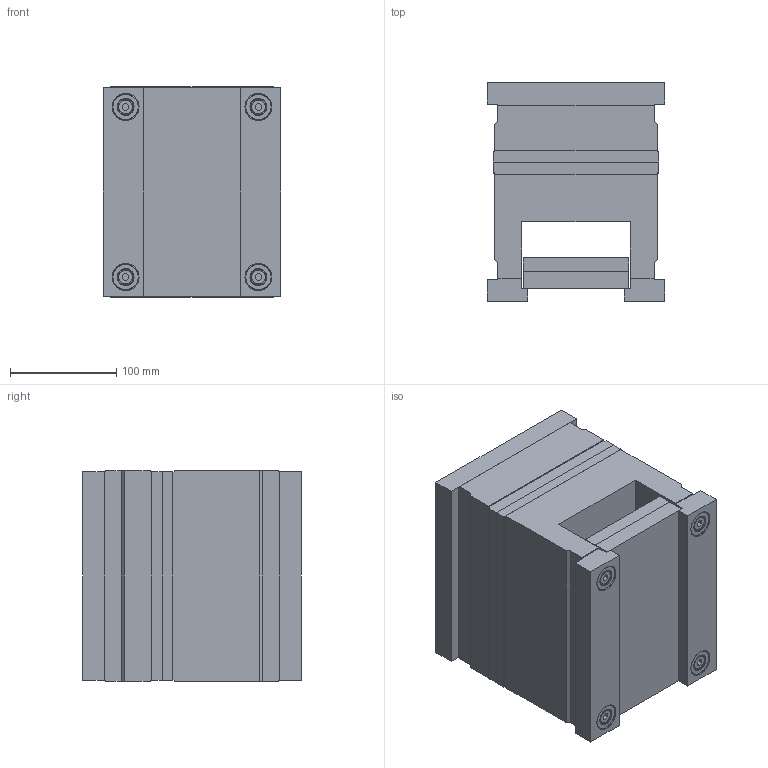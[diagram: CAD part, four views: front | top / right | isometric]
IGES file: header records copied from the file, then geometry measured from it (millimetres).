
Start section: SolidWorks IGES FILE using analytic representation for surfaces
Global section: file name: C:\Documents and Settings\K.P\My Documents\Mechanical\ALMO\CATL_EUR\RECT\1562.IGS; native system: SolidWorks 2001Plus by SolidWorks Corporation; preprocessor: Version 5.3; author: Pavel; date: 020709.091710; units: millimetre
Bounding box: 167 x 206 x 198 mm (x, y, z)
Surface area: 511988.1 mm2 (no closed solid volume)
Topology: 0 solids, 0 shells, 706 faces, 10312 edges, 10304 vertices
Faces by surface type: revolution 452, bspline 254
